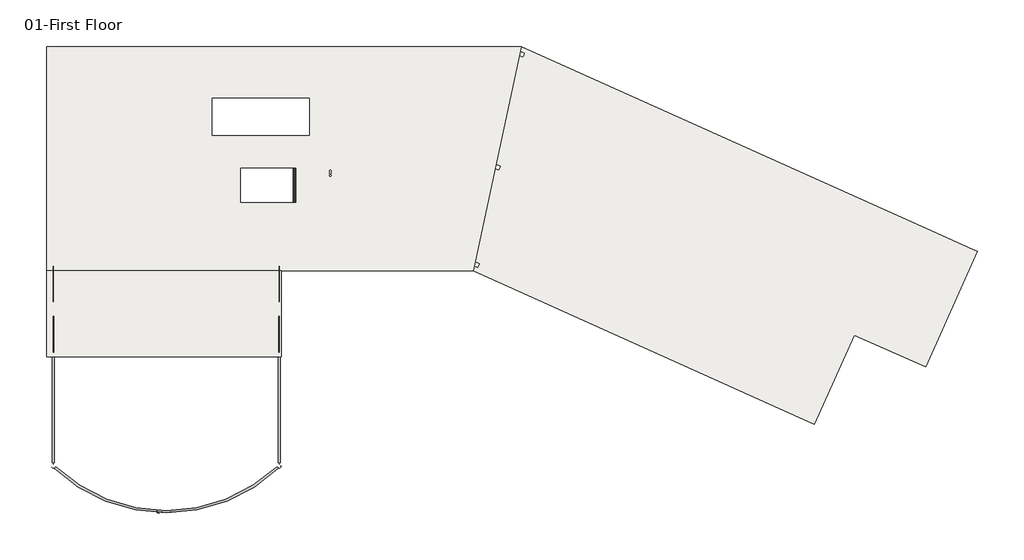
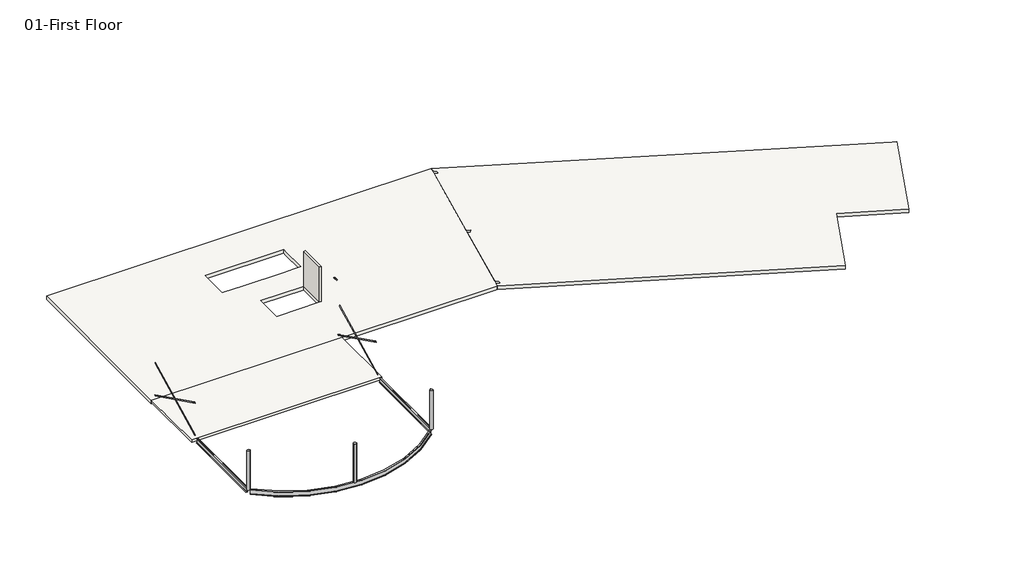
# One storey: 5 beams, 4 members, 3 columns, 3 slabs, 1 wall.
"""IFC4 building model written with IfcOpenShell, lengths in millimetres."""

from ifc_helpers import new_model, si_unit, frame, origin, place, context, project, spatial, polyline, circle_curve, outline, extrude, faceted_brep, transform, mapped, element, save
from ifc_brep_helpers import plane_surface, revolved_surface, advanced_brep
from components import w_shapes_w16x26_79f6515c, w_shapes_w16x26_bcd4aa5d, w_shapes_w16x26_ccd9a1e8, hss_round_column_hss10x_500_6a2b31e4, flat_bars_fl_3_8x4_8cd429a4, flat_bars_fl_3_8x4_80db56d9, flat_bars_fl_3_8x4_0a321cdc, flat_bars_fl_3_8x4_c289e923

model = new_model("IFC4")

# Units and contexts
model_context = context("Model", 3, world=origin())
ifc_project = project(units=[si_unit("LENGTHUNIT", "METRE", prefix="MILLI")], contexts=[model_context])

# Site, building, storey
site = spatial("IfcSite", under=ifc_project)
building = spatial("IfcBuilding", under=site)
storey = spatial("IfcBuildingStorey", under=building, Name="01-First Floor", Elevation=3352.8)

# Beams
placement = place(None, origin())
element("IfcBeam", 1, ObjectType="Concrete-Rectangular Beam : 12 x 24", at=placement, inside=storey, context=model_context, shape_type="SweptSolid", body=[
    extrude(outline(polyline([(152.4, -14147.8), (152.4, -13843.0), (6858.0, -13843.0), (6858.0, -14147.8), (152.4, -14147.8)])), frame((0.0, 0.0, 2743.2), z_axis=(0.0, 0.0, 1.0), x_axis=(1.0, 0.0, 0.0)), (0.0, 0.0, 1.0), 304.8),
])
element("IfcBeam", 2, ObjectType="Concrete-Rectangular Beam : 12 x 24", at=placement, inside=storey, context=model_context, shape_type="SweptSolid", body=[
    extrude(outline(polyline([(14846.3, -13843.0), (14846.3, -14147.8), (7162.8, -14147.8), (7162.8, -13843.0), (14846.3, -13843.0)])), frame((0.0, 0.0, 2743.2), z_axis=(0.0, 0.0, 1.0), x_axis=(1.0, 0.0, 0.0)), (0.0, 0.0, 1.0), 304.8),
])
w_shapes_w16x26_shape = w_shapes_w16x26_79f6515c(model_context)
element("IfcBeam", 3, ObjectType="W Shapes : W16X26", at=placement, inside=storey, context=model_context, shape_type="MappedRepresentation", body=[
    mapped(w_shapes_w16x26_shape, transform((14998.7, -27444.7, 3153.41), x_axis=(-0.7227923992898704, -0.691065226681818, 0.0), y_axis=(0.691065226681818, -0.7227923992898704, 0.0), z_axis=(0.0, 0.0, 1.0))),
])
w_shapes_w16x26_2_shape = w_shapes_w16x26_bcd4aa5d(model_context)
element("IfcBeam", 4, ObjectType="W Shapes : W16X26", at=placement, inside=storey, context=model_context, shape_type="MappedRepresentation", body=[
    mapped(w_shapes_w16x26_2_shape, transform((14998.7, -23723.6, 3153.41), x_axis=(0.0, -1.0, 0.0), y_axis=(1.0, 0.0, 0.0), z_axis=(0.0, 0.0, 1.0))),
])
w_shapes_w16x26_3_shape = w_shapes_w16x26_ccd9a1e8(model_context)
element("IfcBeam", 5, ObjectType="W Shapes : W16X26", at=placement, inside=storey, context=model_context, shape_type="MappedRepresentation", body=[
    mapped(w_shapes_w16x26_3_shape, transform((0.0, -23723.6, 3153.41), x_axis=(0.0, 1.0, 0.0), y_axis=(-1.0, 0.0, 0.0), z_axis=(0.0, 0.0, 1.0))),
])

# Columns
hss_round_column_hss10x_500_shape = hss_round_column_hss10x_500_6a2b31e4(model_context)
element("IfcColumn", 6, ObjectType="HSS Round-Column : HSS10X.500", at=placement, inside=storey, context=model_context, shape_type="MappedRepresentation", body=[
    mapped(hss_round_column_hss10x_500_shape, transform((0.0, -27444.7, 0.0), x_axis=(1.0, 0.0, 0.0), y_axis=(0.0, 1.0, 0.0), z_axis=(0.0, 0.0, 1.0))),
])
element("IfcColumn", 7, ObjectType="HSS Round-Column : HSS10X.500", at=placement, inside=storey, context=model_context, shape_type="MappedRepresentation", body=[
    mapped(hss_round_column_hss10x_500_shape, transform((7010.4, -30441.9, 0.0), x_axis=(1.0, 0.0, 0.0), y_axis=(0.0, 1.0, 0.0), z_axis=(0.0, 0.0, 1.0))),
])
element("IfcColumn", 8, ObjectType="HSS Round-Column : HSS10X.500", at=placement, inside=storey, context=model_context, shape_type="MappedRepresentation", body=[
    mapped(hss_round_column_hss10x_500_shape, transform((14998.7, -27444.7, 0.0), x_axis=(1.0, 0.0, 0.0), y_axis=(0.0, 1.0, 0.0), z_axis=(0.0, 0.0, 1.0))),
])

# Members
flat_bars_fl_3_8x4_shape = flat_bars_fl_3_8x4_8cd429a4(model_context)
element("IfcMember", 9, ObjectType="Flat Bars : FL 3/8X4", at=placement, inside=storey, context=model_context, shape_type="MappedRepresentation", body=[
    mapped(flat_bars_fl_3_8x4_shape, transform((14989.175, -16998.95, 4850.13), x_axis=(0.0, 0.8949563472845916, 0.44615371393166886), y_axis=(-1.0, 0.0, 0.0), z_axis=(0.0, -0.44615371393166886, 0.8949563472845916))),
])
flat_bars_fl_3_8x4_2_shape = flat_bars_fl_3_8x4_80db56d9(model_context)
element("IfcMember", 10, ObjectType="Flat Bars : FL 3/8X4", at=placement, inside=storey, context=model_context, shape_type="MappedRepresentation", body=[
    mapped(flat_bars_fl_3_8x4_2_shape, transform((14998.7, -16998.95, 4850.13), x_axis=(0.0, -0.8949563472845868, 0.4461537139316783), y_axis=(1.0, 0.0, 0.0), z_axis=(0.0, 0.4461537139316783, 0.8949563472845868))),
])
flat_bars_fl_3_8x4_3_shape = flat_bars_fl_3_8x4_0a321cdc(model_context)
element("IfcMember", 11, ObjectType="Flat Bars : FL 3/8X4", at=placement, inside=storey, context=model_context, shape_type="MappedRepresentation", body=[
    mapped(flat_bars_fl_3_8x4_3_shape, transform((9.525, -16998.95, 4850.13), x_axis=(0.0, 0.8949563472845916, 0.44615371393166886), y_axis=(-1.0, 0.0, 0.0), z_axis=(0.0, -0.44615371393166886, 0.8949563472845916))),
])
flat_bars_fl_3_8x4_4_shape = flat_bars_fl_3_8x4_c289e923(model_context)
element("IfcMember", 12, ObjectType="Flat Bars : FL 3/8X4", at=placement, inside=storey, context=model_context, shape_type="MappedRepresentation", body=[
    mapped(flat_bars_fl_3_8x4_4_shape, transform((0.0, -16998.95, 4850.13), x_axis=(0.0, -0.894956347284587, 0.44615371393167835), y_axis=(1.0, 0.0, 0.0), z_axis=(0.0, 0.44615371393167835, 0.894956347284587))),
])

# Slabs
element("IfcSlab", 13, ObjectType="RC Composite Slab 8\"", at=placement, inside=storey, context=model_context, shape_type="SweptSolid", body=[
    extrude(outline(polyline([(15151.1, -20154.9), (-457.2, -20154.9), (-457.2, -14452.6), (15151.1, -14452.6), (15151.1, -20154.9)])), frame((0.0, 0.0, 3149.6), z_axis=(0.0, 0.0, 1.0), x_axis=(1.0, 0.0, 0.0)), (0.0, 0.0, 1.0), 203.2),
])
element("IfcSlab", 14, ObjectType="RC Slab 12\"", at=placement, inside=storey, context=model_context, shape_type="AdvancedBrep", body=[
    advanced_brep(
    [(-457.2, 457.2, 3048.0), (31098.7387393, 457.2, 3048.0), (27903.7815965, -14452.6, 3048.0), (-457.2, -14452.6, 3048.0), (17005.3, -2984.5, 3048.0), (10553.7, -2984.5, 3048.0), (10553.7, -5422.9, 3048.0), (10858.5, -5422.9, 3048.0), (17005.3, -5422.9, 3048.0), (17005.3, -5168.9, 3048.0), (17005.3, -3289.3, 3048.0), (15951.2, -7633.3081651, 3048.0), (12446.0, -7633.3081651, 3048.0), (12446.0, -9893.3, 3048.0), (15951.2, -9893.3, 3048.0), (18347.8020543, -8109.4381113, 3048.0), (18449.4020543, -8109.4381113, 3048.0), (18347.8020543, -7957.0381113, 3048.0), (18449.4020543, -7957.0381113, 3048.0), (18347.8020543, -7804.6381113, 3048.0), (18449.4020543, -7804.6381113, 3048.0), (31098.7387393, 457.2, 3352.8), (-457.2, 457.2, 3352.8), (-457.2, -14452.6, 3352.8), (15151.1, -14452.6, 3352.8), (27903.7815965, -14452.6, 3352.8), (10553.7, -2984.5, 3352.8), (17005.3, -2984.5, 3352.8), (17005.3, -3289.3, 3352.8), (17005.3, -5168.9, 3352.8), (17005.3, -5422.9, 3352.8), (16522.7, -5422.9, 3352.8), (15608.3, -5422.9, 3352.8), (14389.1, -5422.9, 3352.8), (13474.7, -5422.9, 3352.8), (12242.8, -5422.9, 3352.8), (11328.4, -5422.9, 3352.8), (10553.7, -5422.9, 3352.8), (12446.0, -7633.3081651, 3352.8), (15951.2, -7633.3081651, 3352.8), (15951.2, -9893.3, 3352.8), (12446.0, -9893.3, 3352.8), (18449.4020543, -8109.4381113, 3352.8), (18347.8020543, -8109.4381113, 3352.8), (18449.4020543, -7957.0381113, 3352.8), (18347.8020543, -7957.0381113, 3352.8), (18449.4020543, -7804.6381113, 3352.8), (18347.8020543, -7804.6381113, 3352.8), (-457.2, -14452.6, 3149.6)],
    [
        (0, 1),
        (1, 2),
        (2, 3),
        (3, 0),
        (4, 5),
        (5, 6),
        (6, 7),
        (7, 8),
        (8, 9),
        (9, 10),
        (10, 4),
        (11, 12),
        (12, 13),
        (13, 14),
        (14, 11),
        (15, 16, circle_curve(frame((18398.6020543, -8109.4381113, 3048.0), z_axis=(0.0, 0.0, 1.0), x_axis=(1.0, 0.0, 0.0)), 50.8)),
        (16, 15, circle_curve(frame((18398.6020543, -8109.4381113, 3048.0), z_axis=(0.0, 0.0, 1.0), x_axis=(1.0, 0.0, 0.0)), 50.8)),
        (17, 18, circle_curve(frame((18398.6020543, -7957.0381113, 3048.0), z_axis=(0.0, 0.0, 1.0), x_axis=(1.0, 0.0, 0.0)), 50.8)),
        (18, 17, circle_curve(frame((18398.6020543, -7957.0381113, 3048.0), z_axis=(0.0, 0.0, 1.0), x_axis=(1.0, 0.0, 0.0)), 50.8)),
        (19, 20, circle_curve(frame((18398.6020543, -7804.6381113, 3048.0), z_axis=(0.0, 0.0, 1.0), x_axis=(1.0, 0.0, 0.0)), 50.8)),
        (20, 19, circle_curve(frame((18398.6020543, -7804.6381113, 3048.0), z_axis=(0.0, 0.0, 1.0), x_axis=(1.0, 0.0, 0.0)), 50.8)),
        (21, 22),
        (22, 23),
        (23, 24),
        (24, 25),
        (25, 21),
        (26, 27),
        (27, 28),
        (28, 29),
        (29, 30),
        (30, 31),
        (31, 32),
        (32, 33),
        (33, 34),
        (34, 35),
        (35, 36),
        (36, 37),
        (37, 26),
        (38, 39),
        (39, 40),
        (40, 41),
        (41, 38),
        (42, 43, circle_curve(frame((18398.6020543, -8109.4381113, 3352.8), z_axis=(0.0, 0.0, -1.0), x_axis=(1.0, 0.0, 0.0)), 50.8)),
        (43, 42, circle_curve(frame((18398.6020543, -8109.4381113, 3352.8), z_axis=(0.0, 0.0, -1.0), x_axis=(1.0, 0.0, 0.0)), 50.8)),
        (44, 45, circle_curve(frame((18398.6020543, -7957.0381113, 3352.8), z_axis=(0.0, 0.0, -1.0), x_axis=(1.0, 0.0, 0.0)), 50.8)),
        (45, 44, circle_curve(frame((18398.6020543, -7957.0381113, 3352.8), z_axis=(0.0, 0.0, -1.0), x_axis=(1.0, 0.0, 0.0)), 50.8)),
        (46, 47, circle_curve(frame((18398.6020543, -7804.6381113, 3352.8), z_axis=(0.0, 0.0, -1.0), x_axis=(1.0, 0.0, 0.0)), 50.8)),
        (47, 46, circle_curve(frame((18398.6020543, -7804.6381113, 3352.8), z_axis=(0.0, 0.0, -1.0), x_axis=(1.0, 0.0, 0.0)), 50.8)),
        (0, 22),
        (21, 1),
        (25, 2),
        (23, 48),
        (48, 3),
        (4, 27),
        (26, 5),
        (37, 6),
        (30, 8),
        (11, 39),
        (38, 12),
        (41, 13),
        (40, 14),
        (15, 43),
        (42, 16),
        (17, 45),
        (44, 18),
        (19, 47),
        (46, 20),
    ],
    [
        plane_surface(frame((0.0, 457.2, 3048.0), z_axis=(0.0, 0.0, -1.0), x_axis=(1.0, 0.0, 0.0))),
        plane_surface(frame((0.0, 457.2, 3352.8), z_axis=(0.0, 0.0, 1.0), x_axis=(-1.0, 0.0, 0.0))),
        plane_surface(frame((-457.2, 457.2, 3048.0), z_axis=(0.0, 1.0, 0.0), x_axis=(0.0, 0.0, 1.0))),
        plane_surface(frame((31098.7387393, 457.2, 3048.0), z_axis=(0.9778024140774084, -0.2095290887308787, 0.0), x_axis=(0.0, 0.0, 1.0))),
        plane_surface(frame((27903.7815965, -14452.6, 3048.0), z_axis=(0.0, -1.0, 0.0), x_axis=(0.0, 0.0, 1.0))),
        plane_surface(frame((-457.2, -14452.6, 3048.0), z_axis=(-1.0, 0.0, 0.0), x_axis=(0.0, 0.0, 1.0))),
        plane_surface(frame((17005.3, -2984.5, 4572.0), z_axis=(0.0, -1.0, 0.0), x_axis=(0.0, 0.0, -1.0))),
        plane_surface(frame((10553.7, -2984.5, 4572.0), z_axis=(1.0, 0.0, 0.0), x_axis=(0.0, 0.0, -1.0))),
        plane_surface(frame((10553.7, -5422.9, 4572.0), z_axis=(0.0, 1.0, 0.0), x_axis=(0.0, 0.0, -1.0))),
        plane_surface(frame((17005.3, -5422.9, 4572.0), z_axis=(-1.0, 0.0, 0.0), x_axis=(0.0, 0.0, -1.0))),
        plane_surface(frame((15951.2, -7633.3081651, 4572.0), z_axis=(0.0, -1.0, 0.0), x_axis=(0.0, 0.0, -1.0))),
        plane_surface(frame((12446.0, -7633.3081651, 4572.0), z_axis=(1.0, 0.0, 0.0), x_axis=(0.0, 0.0, -1.0))),
        plane_surface(frame((12446.0, -9893.3, 4572.0), z_axis=(0.0, 1.0, 0.0), x_axis=(0.0, 0.0, -1.0))),
        plane_surface(frame((15951.2, -9893.3, 4572.0), z_axis=(-1.0, 0.0, 0.0), x_axis=(0.0, 0.0, -1.0))),
        revolved_surface(polyline([(18449.4020543, -8109.4381113, 3352.8), (18449.4020543, -8109.4381113, 3048.0)]), (18398.6020543, -8109.4381113, 2743.2), (0.0, 0.0, 1.0)),
        revolved_surface(polyline([(18449.4020543, -7957.0381113, 3352.8), (18449.4020543, -7957.0381113, 3048.0)]), (18398.6020543, -7957.0381113, 2743.2), (0.0, 0.0, 1.0)),
        revolved_surface(polyline([(18449.4020543, -7804.6381113, 3352.8), (18449.4020543, -7804.6381113, 3048.0)]), (18398.6020543, -7804.6381113, 2743.2), (0.0, 0.0, 1.0)),
    ],
    [
        (0, [[1, 2, 3, 4], [5, 6, 7, 8, 9, 10, 11], [12, 13, 14, 15], [16, 17], [18, 19], [20, 21]]),
        (1, [[22, 23, 24, 25, 26], [27, 28, 29, 30, 31, 32, 33, 34, 35, 36, 37, 38], [39, 40, 41, 42], [43, 44], [45, 46], [47, 48]]),
        (2, [[-1, 49, -22, 50]]),
        (3, [[-2, -50, -26, 51]]),
        (4, [[-3, -51, -25, -24, 52, 53]]),
        (5, [[-4, -53, -52, -23, -49]]),
        (6, [[54, -27, 55, -5]]),
        (7, [[-55, -38, 56, -6]]),
        (8, [[-56, -37, -36, -35, -34, -33, -32, -31, 57, -8, -7]]),
        (9, [[-54, -11, -10, -9, -57, -30, -29, -28]]),
        (10, [[58, -39, 59, -12]]),
        (11, [[-59, -42, 60, -13]]),
        (12, [[-60, -41, 61, -14]]),
        (13, [[-58, -15, -61, -40]]),
        (14, [[62, -43, 63, -16]]),
        (14, [[-62, -17, -63, -44]]),
        (15, [[64, -45, 65, -18]]),
        (15, [[-64, -19, -65, -46]]),
        (16, [[66, -47, 67, -20]]),
        (16, [[-66, -21, -67, -48]]),
    ],
),
])
element("IfcSlab", 15, ObjectType="RC Slab 12\"", at=placement, inside=storey, context=model_context, shape_type="Brep", body=[
    faceted_brep([(61413.0546278, -13159.9258537, 3048.0), (57962.8673107, -20840.7, 3048.0), (53236.2370668, -18717.5078049, 3048.0), (50577.0429205, -24637.3804878, 3048.0), (27903.7815965, -14452.6, 3048.0), (27969.0988162, -14147.786308, 3048.0), (28217.3432689, -14259.3121951, 3048.0), (28342.2369275, -13981.275122, 3048.0), (28034.4045592, -13843.0124873, 3048.0), (29359.7488162, -7658.086308, 3048.0), (29607.9932689, -7769.6121951, 3048.0), (29732.8869275, -7491.575122, 3048.0), (29425.0545592, -7353.3124873, 3048.0), (30968.1131019, -152.386308, 3048.0), (31216.3575546, -263.9121951, 3048.0), (31341.2512132, 14.124878, 3048.0), (31033.4188449, 152.3875127, 3048.0), (31098.7387393, 457.2, 3048.0), (58354.6468229, -11786.0956098, 3048.0), (61135.0175546, -13035.0321951, 3048.0), (57962.8673107, -20840.7, 3352.8), (61413.0546278, -13159.9258537, 3352.8), (61135.0175546, -13035.0321951, 3352.8), (58354.6468229, -11786.0956098, 3352.8), (31098.7387393, 457.2, 3352.8), (31033.4244536, 152.4, 3352.8), (31341.2512132, 14.124878, 3352.8), (31216.3575546, -263.9121951, 3352.8), (30968.1131019, -152.386308, 3352.8), (29425.0601679, -7353.3, 3352.8), (29732.8869275, -7491.575122, 3352.8), (29607.9932689, -7769.6121951, 3352.8), (29359.7488162, -7658.086308, 3352.8), (28034.4101679, -13843.0, 3352.8), (28342.2369275, -13981.275122, 3352.8), (28217.3432689, -14259.3121951, 3352.8), (27969.0988162, -14147.786308, 3352.8), (27903.7815965, -14452.6, 3352.8), (50577.0429205, -24637.3804878, 3352.8), (53236.2370668, -18717.5078049, 3352.8)], [[[0, 1, 2, 3, 4, 5, 6, 7, 8, 9, 10, 11, 12, 13, 14, 15, 16, 17, 18, 19]], [[20, 21, 22, 23, 24, 25, 26, 27, 28, 29, 30, 31, 32, 33, 34, 35, 36, 37, 38, 39]], [[1, 0, 21, 20]], [[2, 1, 20, 39]], [[3, 2, 39, 38]], [[4, 3, 38, 37]], [[4, 37, 36, 5]], [[24, 17, 16, 25]], [[8, 33, 32, 9]], [[28, 13, 12, 29]], [[0, 19, 18, 17, 24, 23, 22, 21]], [[7, 34, 33, 8]], [[34, 7, 6, 35]], [[35, 6, 5, 36]], [[15, 26, 25, 16]], [[26, 15, 14, 27]], [[27, 14, 13, 28]], [[11, 30, 29, 12]], [[30, 11, 10, 31]], [[31, 10, 9, 32]]]),
])

# Wall
element("IfcWall", 16, ObjectType="6\" Blockwork with render", at=placement, inside=storey, context=model_context, shape_type="SweptSolid", body=[
    extrude(outline(polyline([(16103.6, -7632.7), (16103.6, -9893.3), (15951.2, -9893.3), (15951.2, -7632.7), (16103.6, -7632.7)])), frame((0.0, 0.0, 3352.8), z_axis=(0.0, 0.0, 1.0), x_axis=(1.0, 0.0, 0.0)), (0.0, 0.0, 1.0), 3048.0),
])

save(model, "model.ifc")
